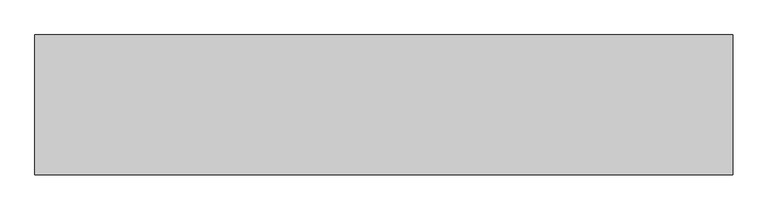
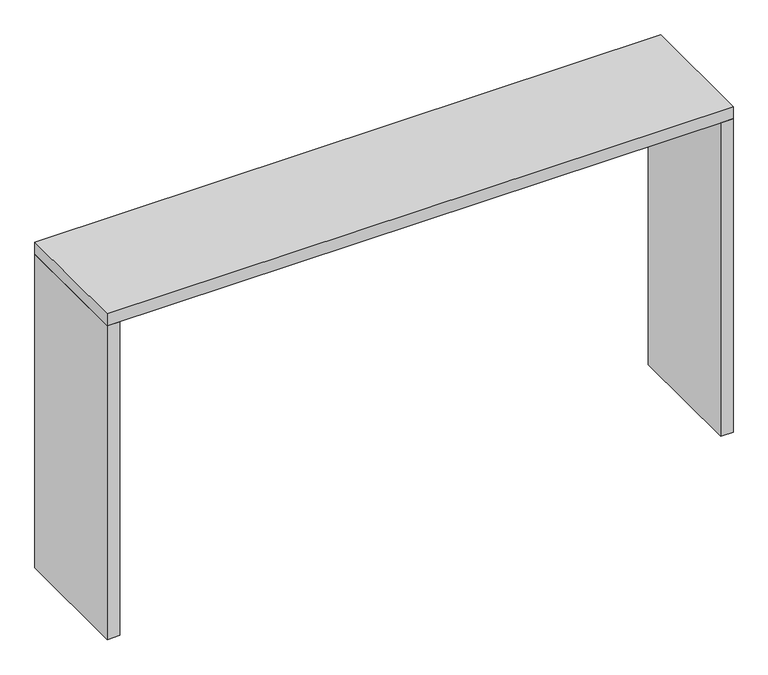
"""IFC4 building model written with IfcOpenShell, lengths in millimetres: furniture geometry, Bancada Aparador : Bancada Aparador 40."""

import ifcopenshell
import ifcopenshell.guid

model = None  # the IFC model being written
_history = None  # IfcOwnerHistory: only IFC2X3 demands one
_inside = {}  # id of a spatial element -> (the spatial element, [elements in it])
_under = {}  # id of a project, library or spatial element -> (it, [spatial elements below it])
_declared = {}  # id of a project -> (the project, [libraries it declares])
_typed = {}  # id of a type object -> (the type object, [elements of that type])
_made_of = {}  # id of a material, layer set ... -> (it, [elements and type objects made of it])


def new_model(schema):
    """Start an empty IFC model of exactly this schema.

    Asked for "IFC4X3", IfcOpenShell would pick the latest addendum, in which some entities
    have other attributes; the version numbers below select the first issue.
    IFC2X3 requires an IfcOwnerHistory on every rooted entity: one is made here for all.
    """
    global model, _history
    if schema == "IFC4X3":
        model = ifcopenshell.file(schema_version=(4, 3, 0, 0))
    else:
        model = ifcopenshell.file(schema=schema)
    _inside.clear()
    _under.clear()
    _declared.clear()
    _typed.clear()
    _made_of.clear()
    _history = None
    if model.schema == "IFC2X3":
        org = make("IfcOrganization", Name="unknown")
        user = make(
            "IfcPersonAndOrganization",
            ThePerson=make("IfcPerson", FamilyName="unknown"),
            TheOrganization=org,
        )
        app = make(
            "IfcApplication",
            ApplicationDeveloper=org,
            Version="unknown",
            ApplicationFullName="unknown",
            ApplicationIdentifier="unknown",
        )
        _history = make(
            "IfcOwnerHistory",
            OwningUser=user,
            OwningApplication=app,
            ChangeAction="ADDED",
            CreationDate=0,
        )
    return model


def make(cls, **values):
    """One entity of the class cls with the attributes given. An attribute that is None is left unset."""
    return model.create_entity(
        cls, **{name: value for name, value in values.items() if value is not None}
    )


def rooted(cls, **values):
    """An entity with a GlobalId (a new one), such as an element, a storey or a relation."""
    return make(cls, GlobalId=ifcopenshell.guid.new(), OwnerHistory=_history, **values)


def si_unit(unit_type, name, prefix=None):
    """IfcSIUnit, for example si_unit("LENGTHUNIT", "METRE", prefix="MILLI")."""
    return make("IfcSIUnit", UnitType=unit_type, Prefix=prefix, Name=name)


def assignment(units):
    """IfcUnitAssignment: the units of a project."""
    return None if units is None else make("IfcUnitAssignment", Units=units)


def point(xyz):
    """IfcCartesianPoint."""
    return None if xyz is None else make("IfcCartesianPoint", Coordinates=xyz)


def direction(xyz):
    """IfcDirection."""
    return None if xyz is None else make("IfcDirection", DirectionRatios=xyz)


def frame(location, z_axis=None, x_axis=None):
    """IfcAxis2Placement3D, a coordinate frame: its origin and axes. An axis left out is left unset."""
    return make(
        "IfcAxis2Placement3D",
        Location=point(location),
        Axis=direction(z_axis),
        RefDirection=direction(x_axis),
    )


def origin():
    """The frame at (0, 0, 0) with its axes left unset."""
    return frame((0.0, 0.0, 0.0))


def origin_with_axes():
    """The frame at (0, 0, 0) with the z axis (0, 0, 1) and the x axis (1, 0, 0) written out."""
    return frame((0.0, 0.0, 0.0), z_axis=(0.0, 0.0, 1.0), x_axis=(1.0, 0.0, 0.0))


def place(relative_to, where):
    """IfcLocalPlacement: puts the frame where relative to a parent placement (None: the world)."""
    return make(
        "IfcLocalPlacement", PlacementRelTo=relative_to, RelativePlacement=where
    )


def context(
    kind, dimensions, precision=None, world=None, true_north=None, identifier=None
):
    """IfcGeometricRepresentationContext, for example the 3D "Model" context."""
    return make(
        "IfcGeometricRepresentationContext",
        ContextIdentifier=identifier,
        ContextType=kind,
        CoordinateSpaceDimension=dimensions,
        Precision=precision,
        WorldCoordinateSystem=world,
        TrueNorth=true_north,
    )


def project(units=None, contexts=None):
    """IfcProject with its units and contexts."""
    return rooted(
        "IfcProject",
        Name="project",
        RepresentationContexts=contexts,
        UnitsInContext=assignment(units),
    )


def spatial(cls, under=None, at=None, **own):
    """A site, building, storey or space (cls), placed at a placement, below another one or the project."""
    s = rooted(cls, ObjectPlacement=at, **own)
    if under is not None:
        _under.setdefault(under.id(), (under, []))[1].append(s)
    return s


def polyline(points):
    """IfcPolyline through the points."""
    return make("IfcPolyline", Points=[point(p) for p in points])


def outline(outer, holes=None, kind="AREA"):
    """IfcArbitraryClosedProfileDef: a profile drawn as a closed curve; with holes, ...WithVoids."""
    if holes is None:
        return make("IfcArbitraryClosedProfileDef", ProfileType=kind, OuterCurve=outer)
    return make(
        "IfcArbitraryProfileDefWithVoids",
        ProfileType=kind,
        OuterCurve=outer,
        InnerCurves=holes,
    )


def extrude(swept, where, along, depth):
    """IfcExtrudedAreaSolid: the profile swept, set in the frame where, extruded along a direction by depth."""
    return make(
        "IfcExtrudedAreaSolid",
        SweptArea=swept,
        Position=where,
        ExtrudedDirection=direction(along),
        Depth=depth,
    )


def shape(context_of_items, identifier, shape_type, items):
    """IfcShapeRepresentation: the items that make up one representation, for example the "Body"."""
    return make(
        "IfcShapeRepresentation",
        ContextOfItems=context_of_items,
        RepresentationIdentifier=identifier,
        RepresentationType=shape_type,
        Items=items,
    )


def source(mapping_origin, context_of_items, identifier, shape_type, items):
    """IfcRepresentationMap: a shape defined once, which mapped items show again and again."""
    return make(
        "IfcRepresentationMap",
        MappingOrigin=mapping_origin,
        MappedRepresentation=shape(context_of_items, identifier, shape_type, items),
    )


def transform(
    local_origin,
    x_axis=None,
    y_axis=None,
    z_axis=None,
    scale=None,
    scale2=None,
    scale3=None,
    uniform=True,
):
    """IfcCartesianTransformationOperator3D, or its non-uniform kind. x_axis, y_axis, z_axis: its Axis1, 2, 3."""
    if uniform:
        return make(
            "IfcCartesianTransformationOperator3D",
            Axis1=direction(x_axis),
            Axis2=direction(y_axis),
            LocalOrigin=point(local_origin),
            Scale=scale,
            Axis3=direction(z_axis),
        )
    return make(
        "IfcCartesianTransformationOperator3DnonUniform",
        Axis1=direction(x_axis),
        Axis2=direction(y_axis),
        LocalOrigin=point(local_origin),
        Scale=scale,
        Axis3=direction(z_axis),
        Scale2=scale2,
        Scale3=scale3,
    )


def mapped(mapping_source, mapping_target):
    """IfcMappedItem: shows the shape of a source again, moved by a transform."""
    return make(
        "IfcMappedItem", MappingSource=mapping_source, MappingTarget=mapping_target
    )


def made_of(thing, what):
    """Note that an element or type object is made of a material, layer set ...; save() writes the relation."""
    if what is not None:
        _made_of.setdefault(what.id(), (what, []))[1].append(thing)
    return thing


def element(
    cls,
    number,
    at=None,
    inside=None,
    cuts=None,
    type_object=None,
    material=None,
    context=None,
    identifier="Body",
    shape_type=None,
    held_by="IfcProductDefinitionShape",
    body=None,
    shapes=None,
    **own,
):
    """One element of the class cls, such as IfcWall. Its Tag is "e" and its number.

    at: its placement. inside: the storey or other place that contains it. cuts: it is an
    opening in that element (IfcRelVoidsElement). A single representation is given by context,
    identifier, shape_type and body (its items); several are given by shapes. held_by: the class
    of the entity that holds the representations. save() writes the other relations.
    """
    e = rooted(cls, Tag="e%d" % number, ObjectPlacement=at, **own)
    if body is not None:
        shapes = [shape(context, identifier, shape_type, body)]
    if shapes is not None:
        e.Representation = make(held_by, Representations=shapes)
    if inside is not None:
        _inside.setdefault(inside.id(), (inside, []))[1].append(e)
    if cuts is not None:
        rooted(
            "IfcRelVoidsElement", RelatingBuildingElement=cuts, RelatedOpeningElement=e
        )
    if type_object is not None:
        _typed.setdefault(type_object.id(), (type_object, []))[1].append(e)
    return made_of(e, material)


def aggregate(whole, parts):
    """IfcRelAggregates: a whole, such as a stair, and the parts it consists of."""
    return rooted("IfcRelAggregates", RelatingObject=whole, RelatedObjects=parts)


def save(model, path):
    """Write the relations noted so far, then the file.

    IfcRelAggregates (storeys below a building ...), IfcRelContainedInSpatialStructure (elements
    in a storey), IfcRelDefinesByType, IfcRelAssociatesMaterial and IfcRelDeclares: one each for
    every whole, place, type object, material and project.
    """
    for whole, parts in _under.values():
        aggregate(whole, parts)
    for where, things in _inside.values():
        rooted(
            "IfcRelContainedInSpatialStructure",
            RelatedElements=things,
            RelatingStructure=where,
        )
    for kind, things in _typed.values():
        rooted("IfcRelDefinesByType", RelatedObjects=things, RelatingType=kind)
    for what, things in _made_of.values():
        rooted("IfcRelAssociatesMaterial", RelatedObjects=things, RelatingMaterial=what)
    for by, libraries in _declared.values():
        rooted("IfcRelDeclares", RelatingContext=by, RelatedDefinitions=libraries)
    model.write(path)


def furniture_7d7f911b(model_context):
    return source(origin(), model_context, "Body", "SweptSolid", [
        extrude(outline(polyline([(799.5377049, 0.0), (799.5377049, -400.0), (-1200.4622951, -400.0), (-1200.4622951, 0.0), (799.5377049, 0.0)])), frame((0.0, 0.0, 1060.0), z_axis=(0.0, 0.0, 1.0), x_axis=(1.0, 0.0, 0.0)), (0.0, 0.0, 1.0), 40.0),
        extrude(outline(polyline([(759.5377049, 0.0), (799.5377049, 0.0), (799.5377049, -400.0), (759.5377049, -400.0), (759.5377049, 0.0)])), origin_with_axes(), (0.0, 0.0, 1.0), 1060.0),
        extrude(outline(polyline([(-1200.4622951, 0.0), (-1160.4622951, 0.0), (-1160.4622951, -400.0), (-1200.4622951, -400.0), (-1200.4622951, 0.0)])), origin_with_axes(), (0.0, 0.0, 1.0), 1060.0),
    ])


if __name__ == "__main__":
    model = new_model("IFC4")
    model_context = context("Model", 3, world=origin())
    ifc_project = project(units=[si_unit("LENGTHUNIT", "METRE", prefix="MILLI")], contexts=[model_context])
    site = spatial("IfcSite", under=ifc_project)
    building = spatial("IfcBuilding", under=site)
    placement = place(None, origin())
    furniture_shape = furniture_7d7f911b(model_context)
    element("IfcFurniture", 1, ObjectType="Bancada Aparador : Bancada Aparador 40", at=placement, inside=building, context=model_context, shape_type="MappedRepresentation", body=[
        mapped(furniture_shape, transform((0.0, 0.0, 0.0), x_axis=(1.0, 0.0, 0.0), y_axis=(0.0, 1.0, 0.0), z_axis=(0.0, 0.0, 1.0))),
    ])
    save(model, "model.ifc")
